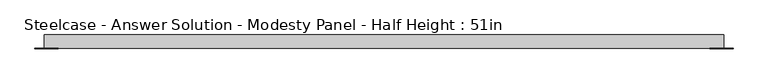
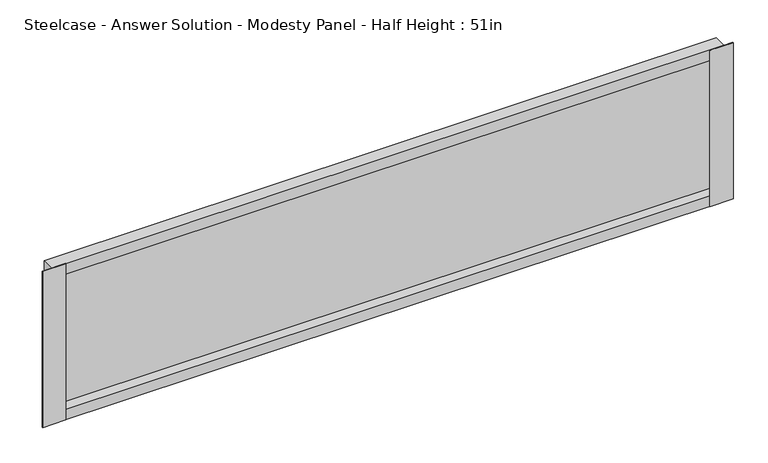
"""IFC4 building model written with IfcOpenShell, lengths in millimetres: furniture geometry, Steelcase - Answer Solution - Modesty Panel - Half Height : 51in."""

from ifc_helpers import new_model, si_unit, frame, origin, place, context, project, spatial, polyline, outline, extrude, faceted_brep, source, transform, mapped, element, save


def steelcase_answer_solution_modesty_panel_half_height_51in_f0155a00(model_context):
    return source(origin(), model_context, "Body", "SolidModel", [
        extrude(outline(polyline([(1838.9400478, -14.2668826), (1838.9400478, -15.0593624), (1794.5248254, -15.0593624), (1794.5248254, -14.2668826), (1838.9400478, -14.2668826)])), frame((0.0, 0.0, 17.653), z_axis=(0.0, 0.0, 1.0), x_axis=(1.0, 0.0, 0.0)), (0.0, 0.0, 1.0), 317.5),
        extrude(outline(polyline([(556.9673392, -14.2668826), (556.9673392, -15.0593624), (512.5520826, -15.0593624), (512.5520826, -14.2668826), (556.9673392, -14.2668826)])), frame((0.0, 0.0, 17.653), z_axis=(0.0, 0.0, 1.0), x_axis=(1.0, 0.0, 0.0)), (0.0, 0.0, 1.0), 317.5),
        faceted_brep([(530.0780827, 10.9045177, 17.653), (530.0780827, -14.2668826, 17.653), (530.0780827, -14.2668826, 335.153), (530.0780827, 10.9045177, 335.153), (1821.4140827, -14.2668826, 17.653), (1821.4140827, 10.9045177, 17.653), (1821.4140827, 10.9045177, 335.153), (1821.4140827, -14.2668826, 335.153), (1820.6216165, 4.7831174, 39.243), (530.8705628, 4.7831174, 39.243), (530.8705628, -14.2668826, 39.243), (1820.6216165, -14.2668826, 39.243), (530.8705628, -14.2668826, 313.563), (1820.6216165, -14.2668826, 313.563), (530.8705628, 4.7831174, 313.563), (1820.6216165, 4.7831174, 313.563)], [[[0, 1, 2, 3]], [[4, 5, 6, 7]], [[8, 9, 10, 11]], [[0, 3, 6, 5]], [[4, 1, 0, 5]], [[2, 1, 4, 7], [10, 12, 13, 11]], [[3, 2, 7, 6]], [[14, 15, 13, 12]], [[9, 8, 15, 14]], [[12, 10, 9, 14]], [[11, 13, 15, 8]]]),
    ])


if __name__ == "__main__":
    model = new_model("IFC4")
    model_context = context("Model", 3, world=origin())
    ifc_project = project(units=[si_unit("LENGTHUNIT", "METRE", prefix="MILLI")], contexts=[model_context])
    site = spatial("IfcSite", under=ifc_project)
    building = spatial("IfcBuilding", under=site)
    placement = place(None, origin())
    steelcase_answer_solution_modesty_panel_half_height_51in_shape = steelcase_answer_solution_modesty_panel_half_height_51in_f0155a00(model_context)
    element("IfcFurniture", 1, ObjectType="Steelcase - Answer Solution - Modesty Panel - Half Height : 51in", at=placement, inside=building, context=model_context, shape_type="MappedRepresentation", body=[
        mapped(steelcase_answer_solution_modesty_panel_half_height_51in_shape, transform((0.0, 0.0, 0.0), x_axis=(1.0, 0.0, 0.0), y_axis=(0.0, 1.0, 0.0), z_axis=(0.0, 0.0, 1.0))),
    ])
    save(model, "model.ifc")
